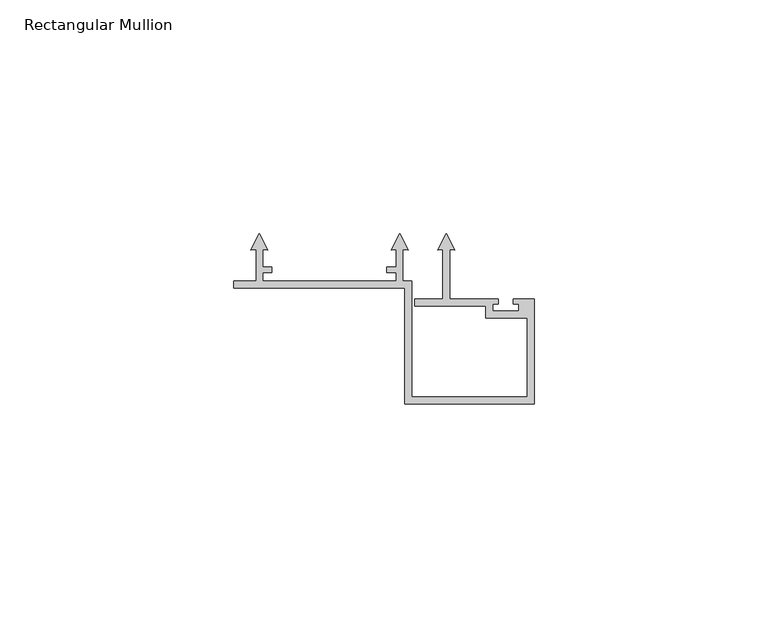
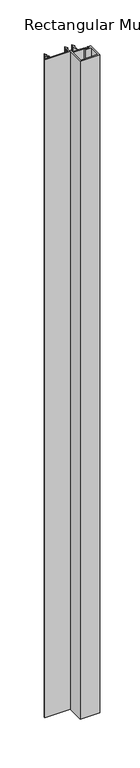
"""IFC4 building model written with IfcOpenShell, lengths in millimetres: member geometry, Rectangular Mullion : Renson_Linarte_LA-B25-05."""

from ifc_helpers import new_model, si_unit, frame, origin, place, context, project, spatial, polyline, outline, extrude, source, transform, mapped, element, save


def rectangular_mullion_4f3ead3b(model_context):
    return source(origin(), model_context, "Body", "SweptSolid", [
        extrude(outline(polyline([(0.0, -36.7000004), (0.0, -35.2000006), (4.7999998, -35.2000006), (4.8000027, -28.5038205), (3.6842638, -28.601435), (5.5000004, -25.0378476), (7.315737, -28.601435), (6.2000002, -28.5038207), (6.2000002, -32.2000004), (8.2000002, -32.2000004), (8.2000002, -33.4000004), (6.2000002, -33.4000004), (6.2000002, -35.2000006), (34.8000002, -35.2000006), (34.8000002, -33.4000004), (32.8000002, -33.4000004), (32.8000002, -32.2000004), (34.8000002, -32.2000004), (34.8000002, -28.5038207), (33.6842635, -28.601435), (35.5000001, -25.0378476), (37.3157367, -28.601435), (36.1999978, -28.5038205), (36.2000007, -35.2000006), (38.1500005, -35.2000006), (38.1500005, -60.0), (62.8500005, -60.0), (62.8500005, -43.1000002), (54.0000005, -43.1000002), (54.0000005, -40.6000002), (38.7723158, -40.6000002), (38.7723158, -39.1000002), (44.8000015, -39.1000002), (44.8000015, -28.5038207), (43.6842647, -28.601435), (45.5000013, -25.0378476), (47.3157379, -28.601435), (46.2000001, -28.5038206), (46.2000001, -39.1000002), (56.6500005, -39.1000002), (56.6500005, -40.1000002), (55.5000005, -40.1000002), (55.5000005, -41.6000002), (61.0000005, -41.6000002), (61.0000005, -40.1000002), (59.8500005, -40.1000002), (59.8500005, -39.1000002), (64.3500005, -39.1000002), (64.3500005, -61.5), (36.6500005, -61.5), (36.6500005, -36.7000004), (0.0, -36.7000004)])), frame((0.0, 0.0, -1000.0), z_axis=(0.0, 0.0, 1.0), x_axis=(1.0, 0.0, 0.0)), (0.0, 0.0, 1.0), 1000.0),
    ])


if __name__ == "__main__":
    model = new_model("IFC4")
    model_context = context("Model", 3, world=origin())
    ifc_project = project(units=[si_unit("LENGTHUNIT", "METRE", prefix="MILLI")], contexts=[model_context])
    site = spatial("IfcSite", under=ifc_project)
    building = spatial("IfcBuilding", under=site)
    placement = place(None, origin())
    rectangular_mullion_shape = rectangular_mullion_4f3ead3b(model_context)
    element("IfcMember", 1, ObjectType="Rectangular Mullion : Renson_Linarte_LA-B25-05", at=placement, inside=building, context=model_context, shape_type="MappedRepresentation", body=[
        mapped(rectangular_mullion_shape, transform((0.0, 0.0, 0.0), x_axis=(1.0, 0.0, 0.0), y_axis=(0.0, 1.0, 0.0), z_axis=(0.0, 0.0, 1.0))),
    ])
    save(model, "model.ifc")
